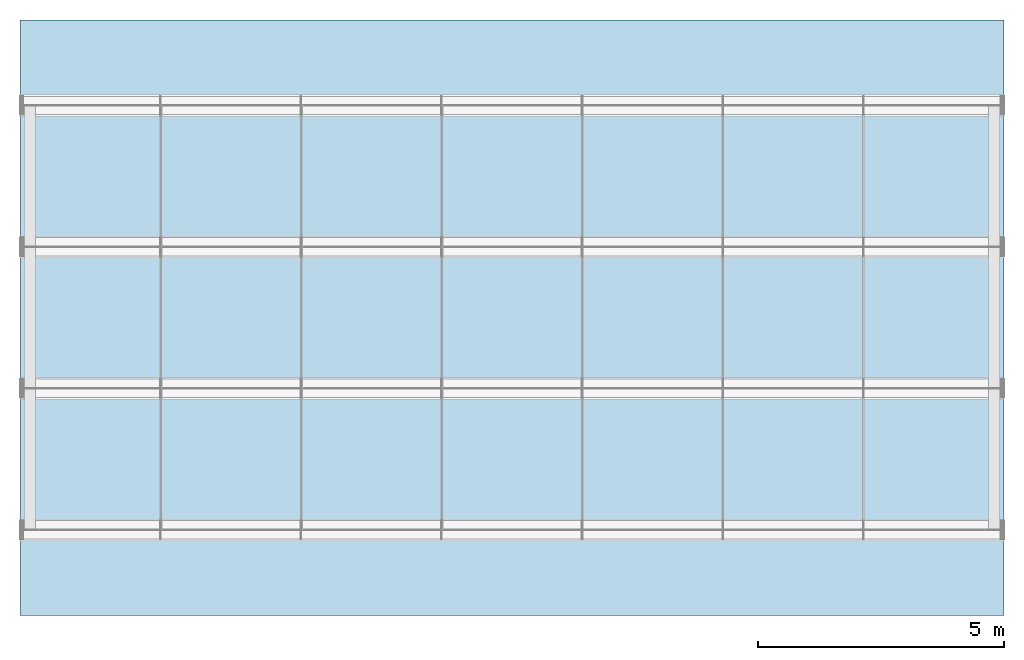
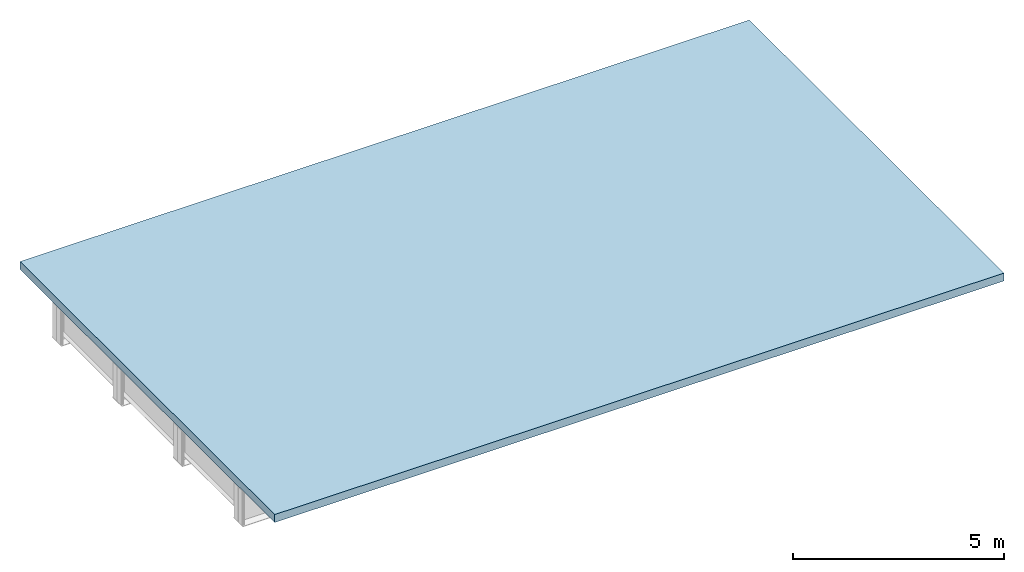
# One storey, part 7 of 12: 1 slab.
"""IFC4 building model written with IfcOpenShell, lengths in metres."""

from ifc_helpers import new_model, si_unit, frame, origin, origin_with_axes, place, context, subcontext, project, spatial, polyline, outline, extrude, element, save


model = new_model("IFC4")

# Units and contexts
model_context = context("Model", 3, precision=1e-05, world=origin())
body_context = subcontext(model_context, "Body", "Model", "MODEL_VIEW")
ifc_project = project(units=[si_unit("LENGTHUNIT", "METRE"), si_unit("AREAUNIT", "SQUARE_METRE"), si_unit("VOLUMEUNIT", "CUBIC_METRE"), si_unit("PLANEANGLEUNIT", "RADIAN")], contexts=[model_context])

# Site, building, storey
site_placement = place(None, origin_with_axes())
site = spatial("IfcSite", under=ifc_project, at=site_placement, Name="Default Site")
building_placement = place(site_placement, origin_with_axes())
building = spatial("IfcBuilding", under=site, at=building_placement, Name="Bridge Structure")
storey_placement = place(building_placement, origin_with_axes())
storey = spatial("IfcBuildingStorey", under=building, at=storey_placement, Name="Superstructure")

# Slab
slab_placement = place(storey_placement, frame((0.0, 0.0, 0.524), z_axis=(0.0, 0.0, 1.0), x_axis=(1.0, 0.0, 0.0)))
element("IfcSlab", 1, at=slab_placement, inside=storey, Name="Deck Slab", context=body_context, shape_type="SweptSolid", body=[
    extrude(outline(polyline([(0.0, -6.05), (20.0, -6.05), (20.0, 6.05), (0.0, 6.05), (0.0, -6.05)])), origin_with_axes(), (0.0, 0.0, 1.0), 0.23),
])

save(model, "model.ifc")
